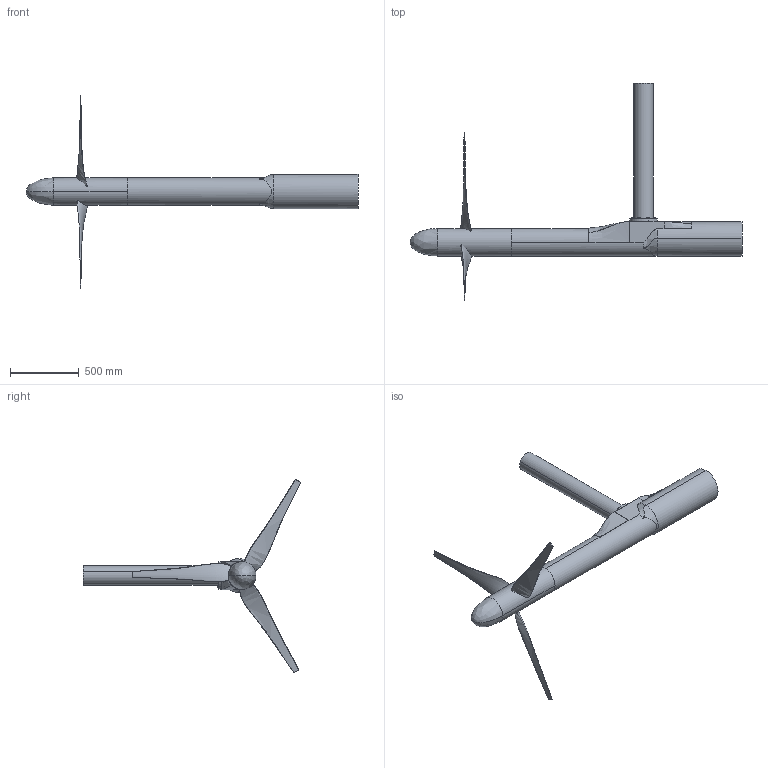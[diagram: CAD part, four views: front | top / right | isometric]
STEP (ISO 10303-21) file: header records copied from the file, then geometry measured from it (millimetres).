
FILE_DESCRIPTION (( 'STEP AP214' ), '1' );
FILE_NAME ('turbine assembly.STEP', '2022-08-22T16:02:19', ( '' ), ( '' ), 'SwSTEP 2.0', 'SolidWorks 2021', '' );
FILE_SCHEMA (( 'AUTOMOTIVE_DESIGN' ));
Length unit declared in the file: millimetre
Products named in the file (6): plain washer normal grade a_iso_Washer ISO 7089 - 10; Nacelle Part; turbine assembly; Tower_assem Part; Rotor Part; hex screw gradeab_iso_ISO 4017 - M10 x 45-N
Assembly tree (19 placements, depth 2):
  turbine assembly
    Rotor Part
    Nacelle Part
    Tower_assem Part
    plain washer normal grade a_iso_Washer ISO 7089 - 10  x8
    hex screw gradeab_iso_ISO 4017 - M10 x 45-N  x8
Bounding box: 2412.86 x 1578.74 x 1406.62 mm (x, y, z)
Volume: 96426477.5 mm3; surface area: 3081357.7 mm2
Topology: 20 solids, 20 shells, 377 faces, 821 edges, 491 vertices
Faces by surface type: plane 154, cylinder 100, cone 66, bspline 39, torus 18
Entity records: 116197 total; most frequent: CARTESIAN_POINT 112706, ORIENTED_EDGE 626, DIRECTION 535, EDGE_CURVE 313, AXIS2_PLACEMENT_3D 229, VERTEX_POINT 197, EDGE_LOOP 158, FACE_OUTER_BOUND 132
